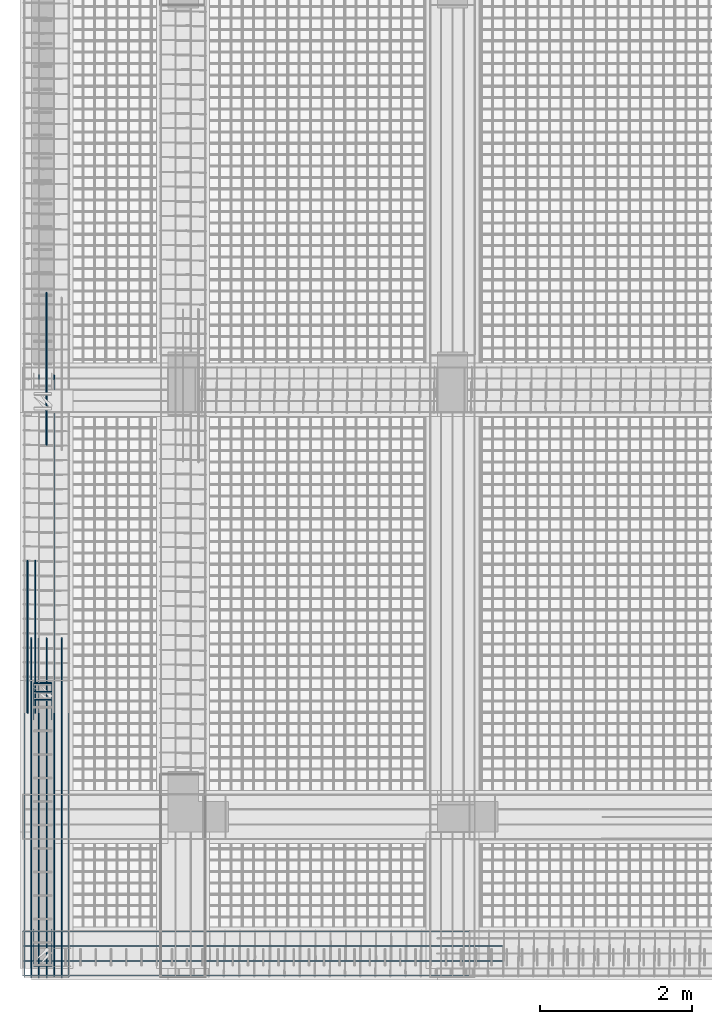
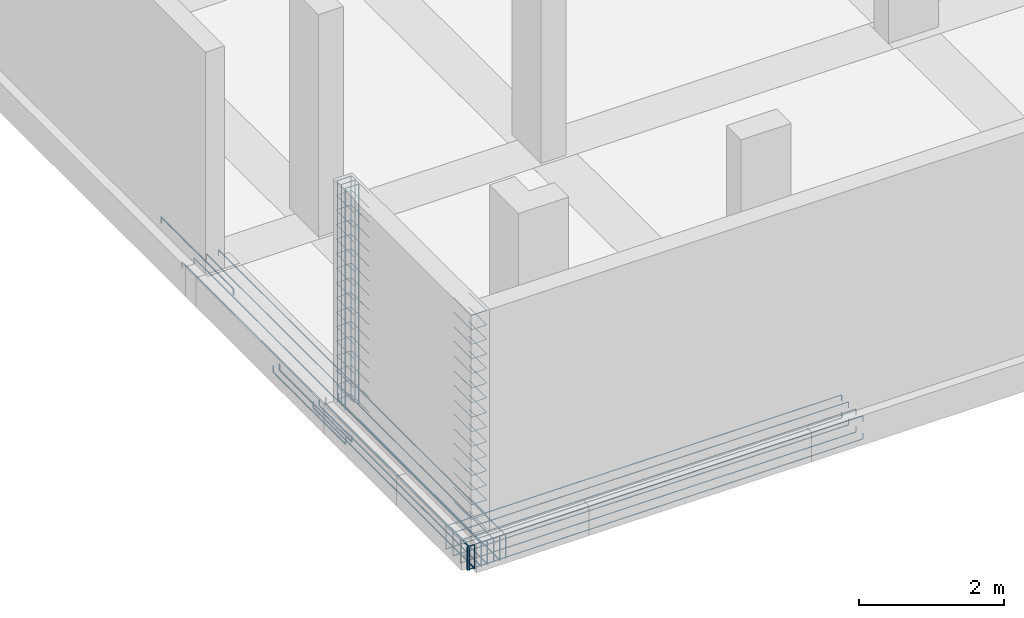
# One storey, part 2 of 9: 6 reinforcing bars.
"""IFC4 building model written with IfcOpenShell, lengths in metres."""

import ifcopenshell
import ifcopenshell.guid

model = None  # the IFC model being written
_history = None  # IfcOwnerHistory: only IFC2X3 demands one
_inside = {}  # id of a spatial element -> (the spatial element, [elements in it])
_under = {}  # id of a project, library or spatial element -> (it, [spatial elements below it])
_declared = {}  # id of a project -> (the project, [libraries it declares])
_typed = {}  # id of a type object -> (the type object, [elements of that type])
_made_of = {}  # id of a material, layer set ... -> (it, [elements and type objects made of it])


def new_model(schema):
    """Start an empty IFC model of exactly this schema.

    Asked for "IFC4X3", IfcOpenShell would pick the latest addendum, in which some entities
    have other attributes; the version numbers below select the first issue.
    IFC2X3 requires an IfcOwnerHistory on every rooted entity: one is made here for all.
    """
    global model, _history
    if schema == "IFC4X3":
        model = ifcopenshell.file(schema_version=(4, 3, 0, 0))
    else:
        model = ifcopenshell.file(schema=schema)
    _inside.clear()
    _under.clear()
    _declared.clear()
    _typed.clear()
    _made_of.clear()
    _history = None
    if model.schema == "IFC2X3":
        org = make("IfcOrganization", Name="unknown")
        user = make(
            "IfcPersonAndOrganization",
            ThePerson=make("IfcPerson", FamilyName="unknown"),
            TheOrganization=org,
        )
        app = make(
            "IfcApplication",
            ApplicationDeveloper=org,
            Version="unknown",
            ApplicationFullName="unknown",
            ApplicationIdentifier="unknown",
        )
        _history = make(
            "IfcOwnerHistory",
            OwningUser=user,
            OwningApplication=app,
            ChangeAction="ADDED",
            CreationDate=0,
        )
    return model


def make(cls, **values):
    """One entity of the class cls with the attributes given. An attribute that is None is left unset."""
    return model.create_entity(
        cls, **{name: value for name, value in values.items() if value is not None}
    )


def entity(cls, *values):
    """Any entity or typed value of the class cls, its attributes in the order of the schema. None: left unset."""
    e = model.create_entity(cls)
    for i, value in enumerate(values):
        if value is not None:
            e[i] = value
    return e


def rooted(cls, **values):
    """An entity with a GlobalId (a new one), such as an element, a storey or a relation."""
    return make(cls, GlobalId=ifcopenshell.guid.new(), OwnerHistory=_history, **values)


def si_unit(unit_type, name, prefix=None):
    """IfcSIUnit, for example si_unit("LENGTHUNIT", "METRE", prefix="MILLI")."""
    return make("IfcSIUnit", UnitType=unit_type, Prefix=prefix, Name=name)


def assignment(units):
    """IfcUnitAssignment: the units of a project."""
    return None if units is None else make("IfcUnitAssignment", Units=units)


def point(xyz):
    """IfcCartesianPoint."""
    return None if xyz is None else make("IfcCartesianPoint", Coordinates=xyz)


def direction(xyz):
    """IfcDirection."""
    return None if xyz is None else make("IfcDirection", DirectionRatios=xyz)


def frame(location, z_axis=None, x_axis=None):
    """IfcAxis2Placement3D, a coordinate frame: its origin and axes. An axis left out is left unset."""
    return make(
        "IfcAxis2Placement3D",
        Location=point(location),
        Axis=direction(z_axis),
        RefDirection=direction(x_axis),
    )


def origin_with_axes():
    """The frame at (0, 0, 0) with the z axis (0, 0, 1) and the x axis (1, 0, 0) written out."""
    return frame((0.0, 0.0, 0.0), z_axis=(0.0, 0.0, 1.0), x_axis=(1.0, 0.0, 0.0))


def place(relative_to, where):
    """IfcLocalPlacement: puts the frame where relative to a parent placement (None: the world)."""
    return make(
        "IfcLocalPlacement", PlacementRelTo=relative_to, RelativePlacement=where
    )


def context(
    kind, dimensions, precision=None, world=None, true_north=None, identifier=None
):
    """IfcGeometricRepresentationContext, for example the 3D "Model" context."""
    return make(
        "IfcGeometricRepresentationContext",
        ContextIdentifier=identifier,
        ContextType=kind,
        CoordinateSpaceDimension=dimensions,
        Precision=precision,
        WorldCoordinateSystem=world,
        TrueNorth=true_north,
    )


def project(units=None, contexts=None):
    """IfcProject with its units and contexts."""
    return rooted(
        "IfcProject",
        Name="project",
        RepresentationContexts=contexts,
        UnitsInContext=assignment(units),
    )


def spatial(cls, under=None, at=None, **own):
    """A site, building, storey or space (cls), placed at a placement, below another one or the project."""
    s = rooted(cls, ObjectPlacement=at, **own)
    if under is not None:
        _under.setdefault(under.id(), (under, []))[1].append(s)
    return s


def shape(context_of_items, identifier, shape_type, items):
    """IfcShapeRepresentation: the items that make up one representation, for example the "Body"."""
    return make(
        "IfcShapeRepresentation",
        ContextOfItems=context_of_items,
        RepresentationIdentifier=identifier,
        RepresentationType=shape_type,
        Items=items,
    )


def source(mapping_origin, context_of_items, identifier, shape_type, items):
    """IfcRepresentationMap: a shape defined once, which mapped items show again and again."""
    return make(
        "IfcRepresentationMap",
        MappingOrigin=mapping_origin,
        MappedRepresentation=shape(context_of_items, identifier, shape_type, items),
    )


def transform(
    local_origin,
    x_axis=None,
    y_axis=None,
    z_axis=None,
    scale=None,
    scale2=None,
    scale3=None,
    uniform=True,
):
    """IfcCartesianTransformationOperator3D, or its non-uniform kind. x_axis, y_axis, z_axis: its Axis1, 2, 3."""
    if uniform:
        return make(
            "IfcCartesianTransformationOperator3D",
            Axis1=direction(x_axis),
            Axis2=direction(y_axis),
            LocalOrigin=point(local_origin),
            Scale=scale,
            Axis3=direction(z_axis),
        )
    return make(
        "IfcCartesianTransformationOperator3DnonUniform",
        Axis1=direction(x_axis),
        Axis2=direction(y_axis),
        LocalOrigin=point(local_origin),
        Scale=scale,
        Axis3=direction(z_axis),
        Scale2=scale2,
        Scale3=scale3,
    )


def mapped(mapping_source, mapping_target):
    """IfcMappedItem: shows the shape of a source again, moved by a transform."""
    return make(
        "IfcMappedItem", MappingSource=mapping_source, MappingTarget=mapping_target
    )


def made_of(thing, what):
    """Note that an element or type object is made of a material, layer set ...; save() writes the relation."""
    if what is not None:
        _made_of.setdefault(what.id(), (what, []))[1].append(thing)
    return thing


def element(
    cls,
    number,
    at=None,
    inside=None,
    cuts=None,
    type_object=None,
    material=None,
    context=None,
    identifier="Body",
    shape_type=None,
    held_by="IfcProductDefinitionShape",
    body=None,
    shapes=None,
    **own,
):
    """One element of the class cls, such as IfcWall. Its Tag is "e" and its number.

    at: its placement. inside: the storey or other place that contains it. cuts: it is an
    opening in that element (IfcRelVoidsElement). A single representation is given by context,
    identifier, shape_type and body (its items); several are given by shapes. held_by: the class
    of the entity that holds the representations. save() writes the other relations.
    """
    e = rooted(cls, Tag="e%d" % number, ObjectPlacement=at, **own)
    if body is not None:
        shapes = [shape(context, identifier, shape_type, body)]
    if shapes is not None:
        e.Representation = make(held_by, Representations=shapes)
    if inside is not None:
        _inside.setdefault(inside.id(), (inside, []))[1].append(e)
    if cuts is not None:
        rooted(
            "IfcRelVoidsElement", RelatingBuildingElement=cuts, RelatedOpeningElement=e
        )
    if type_object is not None:
        _typed.setdefault(type_object.id(), (type_object, []))[1].append(e)
    return made_of(e, material)


def aggregate(whole, parts):
    """IfcRelAggregates: a whole, such as a stair, and the parts it consists of."""
    return rooted("IfcRelAggregates", RelatingObject=whole, RelatedObjects=parts)


def save(model, path):
    """Write the relations noted so far, then the file.

    IfcRelAggregates (storeys below a building ...), IfcRelContainedInSpatialStructure (elements
    in a storey), IfcRelDefinesByType, IfcRelAssociatesMaterial and IfcRelDeclares: one each for
    every whole, place, type object, material and project.
    """
    for whole, parts in _under.values():
        aggregate(whole, parts)
    for where, things in _inside.values():
        rooted(
            "IfcRelContainedInSpatialStructure",
            RelatedElements=things,
            RelatingStructure=where,
        )
    for kind, things in _typed.values():
        rooted("IfcRelDefinesByType", RelatedObjects=things, RelatingType=kind)
    for what, things in _made_of.values():
        rooted("IfcRelAssociatesMaterial", RelatedObjects=things, RelatingMaterial=what)
    for by, libraries in _declared.values():
        rooted("IfcRelDeclares", RelatingContext=by, RelatedDefinitions=libraries)
    model.write(path)


model = new_model("IFC4")

# Units and contexts
model_context = context("Model", 3, precision=1e-05, world=origin_with_axes())
ifc_project = project(units=[si_unit("LENGTHUNIT", "METRE"), si_unit("AREAUNIT", "SQUARE_METRE"), si_unit("VOLUMEUNIT", "CUBIC_METRE"), si_unit("MASSUNIT", "GRAM", prefix="KILO"), si_unit("TIMEUNIT", "SECOND"), si_unit("PLANEANGLEUNIT", "RADIAN"), si_unit("SOLIDANGLEUNIT", "STERADIAN"), si_unit("THERMODYNAMICTEMPERATUREUNIT", "DEGREE_CELSIUS")], contexts=[model_context])

# Site, building, storey
placement_1 = place(None, origin_with_axes())
site = spatial("IfcSite", under=ifc_project, at=placement_1, Name="Italia", CompositionType="ELEMENT")
building = spatial("IfcBuilding", under=site, at=placement_1, Name="Palazzina", CompositionType="ELEMENT")
storey = spatial("IfcBuildingStorey", under=building, at=placement_1, Name="Storey 0", CompositionType="ELEMENT", Elevation=0.0)

# Reinforcing bars
shared_shape_1 = source(origin_with_axes(), model_context, "Body", "AdvancedSweptSolid", [
    entity("IfcSweptDiskSolid", entity("IfcIndexedPolyCurve", entity("IfcCartesianPointList3D", [[-1.53, -1.28, 0.04], [-1.53, -1.76, 0.04], [-1.53076, -1.76383, 0.04], [-1.53293, -1.76707, 0.04], [-1.53617, -1.76924, 0.04], [-1.54, -1.77, 0.04], [-1.76, -1.77, 0.04], [-1.76383, -1.76924, 0.04], [-1.76707, -1.76707, 0.04], [-1.76924, -1.76383, 0.04], [-1.77, -1.76, 0.04], [-1.77, -1.28, 0.04]]), [entity("IfcLineIndex", [1, 2]), entity("IfcLineIndex", [2, 3]), entity("IfcLineIndex", [3, 4]), entity("IfcLineIndex", [4, 5]), entity("IfcLineIndex", [5, 6]), entity("IfcLineIndex", [6, 7]), entity("IfcLineIndex", [7, 8]), entity("IfcLineIndex", [8, 9]), entity("IfcLineIndex", [9, 10]), entity("IfcLineIndex", [10, 11]), entity("IfcLineIndex", [11, 12])], False), 0.005),
])
placement_2 = place(placement_1, origin_with_axes())
reinforcing_bar_1_placement = place(placement_2, origin_with_axes())
element("IfcReinforcingBar", 1, at=reinforcing_bar_1_placement, inside=storey, BarLength=1.21121, CrossSectionArea=7.854e-05, NominalDiameter=0.01, context=model_context, shape_type="MappedRepresentation", body=[
    mapped(shared_shape_1, transform((-3.3, 0.2, 2.46), x_axis=(-1.0, 0.0, 0.0), y_axis=(0.0, -1.0, 0.0), z_axis=(0.0, 0.0, 1.0), scale=1.0)),
    mapped(shared_shape_1, transform((0.0, 0.0, 2.46), x_axis=(1.0, 0.0, 0.0), y_axis=(0.0, 1.0, 0.0), z_axis=(0.0, 0.0, 1.0), scale=1.0)),
    mapped(shared_shape_1, transform((-3.3, 0.2, 2.706), x_axis=(-1.0, 0.0, 0.0), y_axis=(0.0, -1.0, 0.0), z_axis=(0.0, 0.0, 1.0), scale=1.0)),
    mapped(shared_shape_1, transform((0.0, 0.0, 2.706), x_axis=(1.0, 0.0, 0.0), y_axis=(0.0, 1.0, 0.0), z_axis=(0.0, 0.0, 1.0), scale=1.0)),
    mapped(shared_shape_1, transform((-3.3, 0.2, 1.968), x_axis=(-1.0, 0.0, 0.0), y_axis=(0.0, -1.0, 0.0), z_axis=(0.0, 0.0, 1.0), scale=1.0)),
    mapped(shared_shape_1, transform((0.0, 0.0, 1.968), x_axis=(1.0, 0.0, 0.0), y_axis=(0.0, 1.0, 0.0), z_axis=(0.0, 0.0, 1.0), scale=1.0)),
    mapped(shared_shape_1, transform((-3.3, 0.2, 2.214), x_axis=(-1.0, 0.0, 0.0), y_axis=(0.0, -1.0, 0.0), z_axis=(0.0, 0.0, 1.0), scale=1.0)),
    mapped(shared_shape_1, transform((0.0, 0.0, 2.214), x_axis=(1.0, 0.0, 0.0), y_axis=(0.0, 1.0, 0.0), z_axis=(0.0, 0.0, 1.0), scale=1.0)),
    mapped(shared_shape_1, transform((-3.3, 0.2, 3.444), x_axis=(-1.0, 0.0, 0.0), y_axis=(0.0, -1.0, 0.0), z_axis=(0.0, 0.0, 1.0), scale=1.0)),
    mapped(shared_shape_1, transform((0.0, 0.0, 3.444), x_axis=(1.0, 0.0, 0.0), y_axis=(0.0, 1.0, 0.0), z_axis=(0.0, 0.0, 1.0), scale=1.0)),
    mapped(shared_shape_1, transform((-3.3, 0.2, 3.69), x_axis=(-1.0, 0.0, 0.0), y_axis=(0.0, -1.0, 0.0), z_axis=(0.0, 0.0, 1.0), scale=1.0)),
    mapped(shared_shape_1, transform((0.0, 0.0, 3.69), x_axis=(1.0, 0.0, 0.0), y_axis=(0.0, 1.0, 0.0), z_axis=(0.0, 0.0, 1.0), scale=1.0)),
    mapped(shared_shape_1, transform((-3.3, 0.2, 2.952), x_axis=(-1.0, 0.0, 0.0), y_axis=(0.0, -1.0, 0.0), z_axis=(0.0, 0.0, 1.0), scale=1.0)),
    mapped(shared_shape_1, transform((0.0, 0.0, 2.952), x_axis=(1.0, 0.0, 0.0), y_axis=(0.0, 1.0, 0.0), z_axis=(0.0, 0.0, 1.0), scale=1.0)),
    mapped(shared_shape_1, transform((-3.3, 0.2, 3.198), x_axis=(-1.0, 0.0, 0.0), y_axis=(0.0, -1.0, 0.0), z_axis=(0.0, 0.0, 1.0), scale=1.0)),
    mapped(shared_shape_1, transform((0.0, 0.0, 3.198), x_axis=(1.0, 0.0, 0.0), y_axis=(0.0, 1.0, 0.0), z_axis=(0.0, 0.0, 1.0), scale=1.0)),
    mapped(shared_shape_1, transform((-3.3, 0.2, 0.492), x_axis=(-1.0, 0.0, 0.0), y_axis=(0.0, -1.0, 0.0), z_axis=(0.0, 0.0, 1.0), scale=1.0)),
    mapped(shared_shape_1, transform((0.0, 0.0, 0.492), x_axis=(1.0, 0.0, 0.0), y_axis=(0.0, 1.0, 0.0), z_axis=(0.0, 0.0, 1.0), scale=1.0)),
    mapped(shared_shape_1, transform((-3.3, 0.2, 0.738), x_axis=(-1.0, 0.0, 0.0), y_axis=(0.0, -1.0, 0.0), z_axis=(0.0, 0.0, 1.0), scale=1.0)),
    mapped(shared_shape_1, transform((0.0, 0.0, 0.738), x_axis=(1.0, 0.0, 0.0), y_axis=(0.0, 1.0, 0.0), z_axis=(0.0, 0.0, 1.0), scale=1.0)),
    mapped(shared_shape_1, transform((-3.3, 0.2, 0.0), x_axis=(-1.0, 0.0, 0.0), y_axis=(0.0, -1.0, 0.0), z_axis=(0.0, 0.0, 1.0), scale=1.0)),
    mapped(shared_shape_1, transform((0.0, 0.0, 0.0), x_axis=(1.0, 0.0, 0.0), y_axis=(0.0, 1.0, 0.0), z_axis=(0.0, 0.0, 1.0), scale=1.0)),
    mapped(shared_shape_1, transform((-3.3, 0.2, 0.246), x_axis=(-1.0, 0.0, 0.0), y_axis=(0.0, -1.0, 0.0), z_axis=(0.0, 0.0, 1.0), scale=1.0)),
    mapped(shared_shape_1, transform((0.0, 0.0, 0.246), x_axis=(1.0, 0.0, 0.0), y_axis=(0.0, 1.0, 0.0), z_axis=(0.0, 0.0, 1.0), scale=1.0)),
    mapped(shared_shape_1, transform((-3.3, 0.2, 1.476), x_axis=(-1.0, 0.0, 0.0), y_axis=(0.0, -1.0, 0.0), z_axis=(0.0, 0.0, 1.0), scale=1.0)),
    mapped(shared_shape_1, transform((0.0, 0.0, 1.476), x_axis=(1.0, 0.0, 0.0), y_axis=(0.0, 1.0, 0.0), z_axis=(0.0, 0.0, 1.0), scale=1.0)),
    mapped(shared_shape_1, transform((-3.3, 0.2, 1.722), x_axis=(-1.0, 0.0, 0.0), y_axis=(0.0, -1.0, 0.0), z_axis=(0.0, 0.0, 1.0), scale=1.0)),
    mapped(shared_shape_1, transform((0.0, 0.0, 1.722), x_axis=(1.0, 0.0, 0.0), y_axis=(0.0, 1.0, 0.0), z_axis=(0.0, 0.0, 1.0), scale=1.0)),
    mapped(shared_shape_1, transform((-3.3, 0.2, 0.984), x_axis=(-1.0, 0.0, 0.0), y_axis=(0.0, -1.0, 0.0), z_axis=(0.0, 0.0, 1.0), scale=1.0)),
    mapped(shared_shape_1, transform((0.0, 0.0, 0.984), x_axis=(1.0, 0.0, 0.0), y_axis=(0.0, 1.0, 0.0), z_axis=(0.0, 0.0, 1.0), scale=1.0)),
    mapped(shared_shape_1, transform((-3.3, 0.2, 1.23), x_axis=(-1.0, 0.0, 0.0), y_axis=(0.0, -1.0, 0.0), z_axis=(0.0, 0.0, 1.0), scale=1.0)),
    mapped(shared_shape_1, transform((0.0, 0.0, 1.23), x_axis=(1.0, 0.0, 0.0), y_axis=(0.0, 1.0, 0.0), z_axis=(0.0, 0.0, 1.0), scale=1.0)),
])
shared_shape_2 = source(origin_with_axes(), model_context, "Body", "AdvancedSweptSolid", [
    entity("IfcSweptDiskSolid", entity("IfcIndexedPolyCurve", entity("IfcCartesianPointList3D", [[-1.543, 1.743, 0.0], [-1.543, 1.743, 3.734], [-1.761, 1.743, 3.734]]), [entity("IfcLineIndex", [1, 2]), entity("IfcLineIndex", [2, 3])], False), 0.008),
])
reinforcing_bar_2_placement = place(placement_2, origin_with_axes())
element("IfcReinforcingBar", 2, at=reinforcing_bar_2_placement, inside=storey, BarLength=3.952, CrossSectionArea=0.00020106, NominalDiameter=0.016, context=model_context, shape_type="MappedRepresentation", body=[
    mapped(shared_shape_2, transform((0.0, 0.107, 0.0), x_axis=(1.0, 0.0, 0.0), y_axis=(0.0, 1.0, 0.0), z_axis=(0.0, 0.0, 1.0), scale=1.0)),
    mapped(shared_shape_2, transform((-3.3, 3.486, 0.0), x_axis=(-1.0, 0.0, 0.0), y_axis=(0.0, -1.0, 0.0), z_axis=(0.0, 0.0, 1.0), scale=1.0)),
    mapped(shared_shape_2, transform((0.0, 0.0, 0.0), x_axis=(1.0, 0.0, 0.0), y_axis=(0.0, 1.0, 0.0), z_axis=(0.0, 0.0, 1.0), scale=1.0)),
    mapped(shared_shape_2, transform((-3.3, 3.7, 0.0), x_axis=(-1.0, 0.0, 0.0), y_axis=(0.0, -1.0, 0.0), z_axis=(0.0, 0.0, 1.0), scale=1.0)),
    mapped(shared_shape_2, transform((0.0, 0.214, 0.0), x_axis=(1.0, 0.0, 0.0), y_axis=(0.0, 1.0, 0.0), z_axis=(0.0, 0.0, 1.0), scale=1.0)),
    mapped(shared_shape_2, transform((-3.3, 3.593, 0.0), x_axis=(-1.0, 0.0, 0.0), y_axis=(0.0, -1.0, 0.0), z_axis=(0.0, 0.0, 1.0), scale=1.0)),
])
shared_shape_3 = source(origin_with_axes(), model_context, "Body", "AdvancedSweptSolid", [
    entity("IfcSweptDiskSolid", entity("IfcIndexedPolyCurve", entity("IfcCartesianPointList3D", [[-1.91, -1.892, -0.056], [-1.91, -1.892, -0.434], [-1.90924, -1.892, -0.437827], [-1.90707, -1.892, -0.441071], [-1.90383, -1.892, -0.443239], [-1.9, -1.892, -0.444], [3.975, -1.892, -0.444], [4.39082, -1.892, -0.444], [4.39464, -1.892, -0.443239], [4.39789, -1.892, -0.441071], [4.40005, -1.892, -0.437827], [4.40082, -1.892, -0.434], [4.40082, -1.892, -0.344]]), [entity("IfcLineIndex", [1, 2]), entity("IfcLineIndex", [2, 3]), entity("IfcLineIndex", [3, 4]), entity("IfcLineIndex", [4, 5]), entity("IfcLineIndex", [5, 6]), entity("IfcLineIndex", [6, 7]), entity("IfcLineIndex", [7, 8]), entity("IfcLineIndex", [8, 9]), entity("IfcLineIndex", [9, 10]), entity("IfcLineIndex", [10, 11]), entity("IfcLineIndex", [11, 12]), entity("IfcLineIndex", [12, 13])], False), 0.008),
])
reinforcing_bar_3_placement = place(placement_2, origin_with_axes())
element("IfcReinforcingBar", 3, at=reinforcing_bar_3_placement, inside=storey, BarLength=6.79003, CrossSectionArea=0.00020106, NominalDiameter=0.016, context=model_context, shape_type="MappedRepresentation", body=[
    mapped(shared_shape_3, transform((0.0, -3.2, -0.5), x_axis=(1.0, 0.0, 0.0), y_axis=(0.0, -1.0, 0.0), z_axis=(0.0, 0.0, -1.0), scale=1.0)),
    mapped(shared_shape_3, transform((0.0, -3.784, -0.5), x_axis=(1.0, 0.0, 0.0), y_axis=(0.0, -1.0, 0.0), z_axis=(0.0, 0.0, -1.0), scale=1.0)),
    mapped(shared_shape_3, transform((0.0, -3.392, -0.5), x_axis=(1.0, 0.0, 0.0), y_axis=(0.0, -1.0, 0.0), z_axis=(0.0, 0.0, -1.0), scale=1.0)),
    mapped(shared_shape_3, transform((0.0, -3.592, -0.5), x_axis=(1.0, 0.0, 0.0), y_axis=(0.0, -1.0, 0.0), z_axis=(0.0, 0.0, -1.0), scale=1.0)),
    mapped(shared_shape_3, transform((0.0, 0.584, 0.0), x_axis=(1.0, 0.0, 0.0), y_axis=(0.0, 1.0, 0.0), z_axis=(0.0, 0.0, 1.0), scale=1.0)),
    mapped(shared_shape_3, transform((0.0, 0.0, 0.0), x_axis=(1.0, 0.0, 0.0), y_axis=(0.0, 1.0, 0.0), z_axis=(0.0, 0.0, 1.0), scale=1.0)),
    mapped(shared_shape_3, transform((0.0, 0.392, 0.0), x_axis=(1.0, 0.0, 0.0), y_axis=(0.0, 1.0, 0.0), z_axis=(0.0, 0.0, 1.0), scale=1.0)),
    mapped(shared_shape_3, transform((0.0, 0.192, 0.0), x_axis=(1.0, 0.0, 0.0), y_axis=(0.0, 1.0, 0.0), z_axis=(0.0, 0.0, 1.0), scale=1.0)),
])
shared_shape_4 = source(origin_with_axes(), model_context, "Body", "AdvancedSweptSolid", [
    entity("IfcSweptDiskSolid", entity("IfcIndexedPolyCurve", entity("IfcCartesianPointList3D", [[-1.6, -1.91, -0.056], [-1.6, -1.91, -0.434], [-1.6, -1.90924, -0.437827], [-1.6, -1.90707, -0.441071], [-1.6, -1.90383, -0.443239], [-1.6, -1.9, -0.444], [-1.6, 2.0, -0.444], [-1.6, 2.54727, -0.444], [-1.6, 2.5511, -0.443239], [-1.6, 2.55434, -0.441071], [-1.6, 2.55651, -0.437827], [-1.6, 2.55727, -0.434], [-1.6, 2.55727, -0.344]]), [entity("IfcLineIndex", [1, 2]), entity("IfcLineIndex", [2, 3]), entity("IfcLineIndex", [3, 4]), entity("IfcLineIndex", [4, 5]), entity("IfcLineIndex", [5, 6]), entity("IfcLineIndex", [6, 7]), entity("IfcLineIndex", [7, 8]), entity("IfcLineIndex", [8, 9]), entity("IfcLineIndex", [9, 10]), entity("IfcLineIndex", [10, 11]), entity("IfcLineIndex", [11, 12]), entity("IfcLineIndex", [12, 13])], False), 0.01),
])
reinforcing_bar_4_placement = place(placement_2, origin_with_axes())
element("IfcReinforcingBar", 4, at=reinforcing_bar_4_placement, inside=storey, BarLength=4.94649, CrossSectionArea=0.00031416, NominalDiameter=0.02, context=model_context, shape_type="MappedRepresentation", body=[
    mapped(shared_shape_4, transform((0.2, 0.0, 0.0), x_axis=(1.0, 0.0, 0.0), y_axis=(0.0, 1.0, 0.0), z_axis=(0.0, 0.0, 1.0), scale=1.0)),
    mapped(shared_shape_4, transform((0.0, 0.0, 0.0), x_axis=(1.0, 0.0, 0.0), y_axis=(0.0, 1.0, 0.0), z_axis=(0.0, 0.0, 1.0), scale=1.0)),
    mapped(shared_shape_4, transform((-0.2, 0.0, 0.0), x_axis=(1.0, 0.0, 0.0), y_axis=(0.0, 1.0, 0.0), z_axis=(0.0, 0.0, 1.0), scale=1.0)),
    mapped(shared_shape_4, transform((-0.1, 0.0, 0.0), x_axis=(1.0, 0.0, 0.0), y_axis=(0.0, 1.0, 0.0), z_axis=(0.0, 0.0, 1.0), scale=1.0)),
])
shared_shape_5 = source(origin_with_axes(), model_context, "Body", "AdvancedSweptSolid", [
    entity("IfcSweptDiskSolid", entity("IfcIndexedPolyCurve", entity("IfcCartesianPointList3D", [[-1.75, 1.57418, -0.344], [-1.75, 1.57418, -0.434], [-1.75, 1.57494, -0.437827], [-1.75, 1.57711, -0.441071], [-1.75, 1.58036, -0.443239], [-1.75, 1.58418, -0.444], [-1.75, 2.0, -0.444], [-1.75, 3.14837, -0.444], [-1.75, 3.56418, -0.444], [-1.75, 3.56801, -0.443239], [-1.75, 3.57125, -0.441071], [-1.75, 3.57342, -0.437827], [-1.75, 3.57418, -0.434], [-1.75, 3.57418, -0.344]]), [entity("IfcLineIndex", [1, 2]), entity("IfcLineIndex", [2, 3]), entity("IfcLineIndex", [3, 4]), entity("IfcLineIndex", [4, 5]), entity("IfcLineIndex", [5, 6]), entity("IfcLineIndex", [6, 7]), entity("IfcLineIndex", [7, 8]), entity("IfcLineIndex", [8, 9]), entity("IfcLineIndex", [9, 10]), entity("IfcLineIndex", [10, 11]), entity("IfcLineIndex", [11, 12]), entity("IfcLineIndex", [12, 13]), entity("IfcLineIndex", [13, 14])], False), 0.008),
])
reinforcing_bar_5_placement = place(placement_2, origin_with_axes())
element("IfcReinforcingBar", 5, at=reinforcing_bar_5_placement, inside=storey, BarLength=2.19121, CrossSectionArea=0.00020106, NominalDiameter=0.016, context=model_context, shape_type="MappedRepresentation", body=[
    mapped(shared_shape_5, transform((-3.35, 3.53, -0.5), x_axis=(-1.0, 0.0, 0.0), y_axis=(0.0, 1.0, 0.0), z_axis=(0.0, 0.0, -1.0), scale=1.0)),
    mapped(shared_shape_5, transform((-0.1, 0.0, 0.0), x_axis=(1.0, 0.0, 0.0), y_axis=(0.0, 1.0, 0.0), z_axis=(0.0, 0.0, 1.0), scale=1.0)),
    mapped(shared_shape_5, transform((0.0, 0.0, 0.0), x_axis=(1.0, 0.0, 0.0), y_axis=(0.0, 1.0, 0.0), z_axis=(0.0, 0.0, 1.0), scale=1.0)),
])
shared_shape_6 = source(origin_with_axes(), model_context, "Body", "AdvancedSweptSolid", [
    entity("IfcSweptDiskSolid", entity("IfcIndexedPolyCurve", entity("IfcCartesianPointList3D", [[-1.309, -1.91, -0.444], [-1.309, -1.91, -0.066], [-1.309, -1.90924, -0.0621732], [-1.309, -1.90707, -0.0589289], [-1.309, -1.90383, -0.0567612], [-1.309, -1.9, -0.056], [-1.309, 5.53, -0.056], [-1.309, 6.01154, -0.056], [-1.309, 6.01537, -0.0567612], [-1.309, 6.01861, -0.0589289], [-1.309, 6.02078, -0.0621732], [-1.309, 6.02154, -0.066], [-1.309, 6.02154, -0.156]]), [entity("IfcLineIndex", [1, 2]), entity("IfcLineIndex", [2, 3]), entity("IfcLineIndex", [3, 4]), entity("IfcLineIndex", [4, 5]), entity("IfcLineIndex", [5, 6]), entity("IfcLineIndex", [6, 7]), entity("IfcLineIndex", [7, 8]), entity("IfcLineIndex", [8, 9]), entity("IfcLineIndex", [9, 10]), entity("IfcLineIndex", [10, 11]), entity("IfcLineIndex", [11, 12]), entity("IfcLineIndex", [12, 13])], False), 0.009),
])
reinforcing_bar_6_placement = place(placement_2, origin_with_axes())
element("IfcReinforcingBar", 6, at=reinforcing_bar_6_placement, inside=storey, BarLength=8.41076, CrossSectionArea=0.00025447, NominalDiameter=0.018, context=model_context, shape_type="MappedRepresentation", body=[
    mapped(shared_shape_6, transform((-0.582, 0.0, 0.0), x_axis=(1.0, 0.0, 0.0), y_axis=(0.0, 1.0, 0.0), z_axis=(0.0, 0.0, 1.0), scale=1.0)),
    mapped(shared_shape_6, transform((0.0, 0.0, 0.0), x_axis=(1.0, 0.0, 0.0), y_axis=(0.0, 1.0, 0.0), z_axis=(0.0, 0.0, 1.0), scale=1.0)),
    mapped(shared_shape_6, transform((-0.391, 0.0, 0.0), x_axis=(1.0, 0.0, 0.0), y_axis=(0.0, 1.0, 0.0), z_axis=(0.0, 0.0, 1.0), scale=1.0)),
    mapped(shared_shape_6, transform((-0.191, 0.0, 0.0), x_axis=(1.0, 0.0, 0.0), y_axis=(0.0, 1.0, 0.0), z_axis=(0.0, 0.0, 1.0), scale=1.0)),
])

save(model, "model.ifc")
